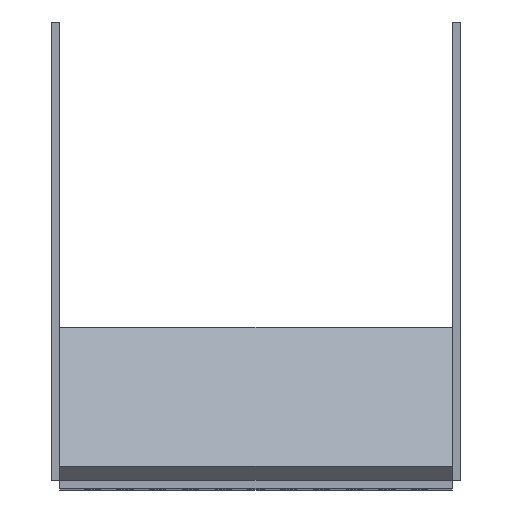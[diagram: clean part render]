
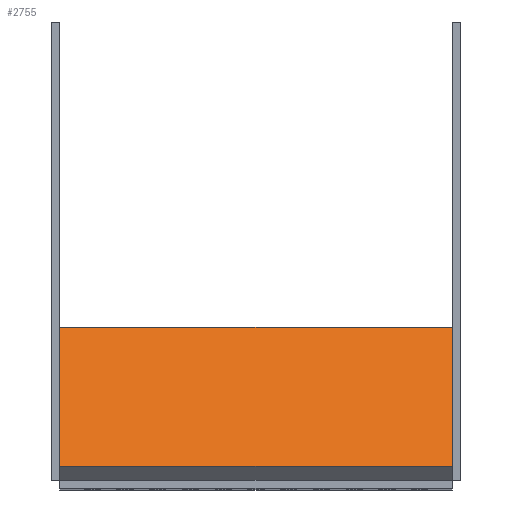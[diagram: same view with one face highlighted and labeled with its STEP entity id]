
A CAD part, top view. The second image highlights one B-rep face of the part: STEP entity #2755.
In plain terms, the highlighted planar face has unit normal (0, 0.707, 0.707) as drawn and (0, 0.669, 0.743) by its records, which use the part's own axes.
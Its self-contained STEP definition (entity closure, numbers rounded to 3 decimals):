
#143 = PLANE ( 'NONE',  #4392 ) ;
#424 = FACE_OUTER_BOUND ( 'NONE', #2506, .T. ) ;
#543 = VERTEX_POINT ( 'NONE', #5334 ) ;
#574 = EDGE_CURVE ( 'NONE', #543, #3211, #3727, .T. ) ;
#904 = DIRECTION ( 'NONE',  ( 1., 0., 0. ) ) ;
#915 = DIRECTION ( 'NONE',  ( 0., 0.669, 0.743 ) ) ;
#930 = LINE ( 'NONE', #3928, #1769 ) ;
#990 = VERTEX_POINT ( 'NONE', #2852 ) ;
#1253 = ORIENTED_EDGE ( 'NONE', *, *, #1884, .T. ) ;
#1296 = CARTESIAN_POINT ( 'NONE',  ( -120., 72.368, -27.78 ) ) ;
#1431 = DIRECTION ( 'NONE',  ( 0., -0.743, 0.669 ) ) ;
#1703 = VECTOR ( 'NONE', #5009, 1000. ) ;
#1769 = VECTOR ( 'NONE', #1431, 1000. ) ;
#1822 = ORIENTED_EDGE ( 'NONE', *, *, #3626, .T. ) ;
#1884 = EDGE_CURVE ( 'NONE', #2679, #990, #5062, .T. ) ;
#2357 = CARTESIAN_POINT ( 'NONE',  ( -120., 27.78, 12.368 ) ) ;
#2506 = EDGE_LOOP ( 'NONE', ( #3196, #4458, #1822, #1253 ) ) ;
#2638 = CARTESIAN_POINT ( 'NONE',  ( -120., 27.78, 12.368 ) ) ;
#2652 = CARTESIAN_POINT ( 'NONE',  ( 0., 72.368, -27.78 ) ) ;
#2679 = VERTEX_POINT ( 'NONE', #2638 ) ;
#2755 = ADVANCED_FACE ( 'NONE', ( #424 ), #143, .T. ) ;
#2852 = CARTESIAN_POINT ( 'NONE',  ( 0., 27.78, 12.368 ) ) ;
#3095 = VECTOR ( 'NONE', #904, 1000. ) ;
#3196 = ORIENTED_EDGE ( 'NONE', *, *, #3398, .F. ) ;
#3211 = VERTEX_POINT ( 'NONE', #2652 ) ;
#3398 = EDGE_CURVE ( 'NONE', #3211, #990, #930, .T. ) ;
#3407 = LINE ( 'NONE', #3736, #1703 ) ;
#3626 = EDGE_CURVE ( 'NONE', #543, #2679, #3407, .T. ) ;
#3727 = LINE ( 'NONE', #1296, #3095 ) ;
#3729 = VECTOR ( 'NONE', #5291, 1000. ) ;
#3736 = CARTESIAN_POINT ( 'NONE',  ( -120., 72.368, -27.78 ) ) ;
#3859 = CARTESIAN_POINT ( 'NONE',  ( -120., 72.368, -27.78 ) ) ;
#3928 = CARTESIAN_POINT ( 'NONE',  ( 0., 72.368, -27.78 ) ) ;
#4299 = DIRECTION ( 'NONE',  ( -1., 0., 0. ) ) ;
#4392 = AXIS2_PLACEMENT_3D ( 'NONE', #3859, #915, #4299 ) ;
#4458 = ORIENTED_EDGE ( 'NONE', *, *, #574, .F. ) ;
#5009 = DIRECTION ( 'NONE',  ( 0., -0.743, 0.669 ) ) ;
#5062 = LINE ( 'NONE', #2357, #3729 ) ;
#5291 = DIRECTION ( 'NONE',  ( 1., 0., 0. ) ) ;
#5334 = CARTESIAN_POINT ( 'NONE',  ( -120., 72.368, -27.78 ) ) ;
